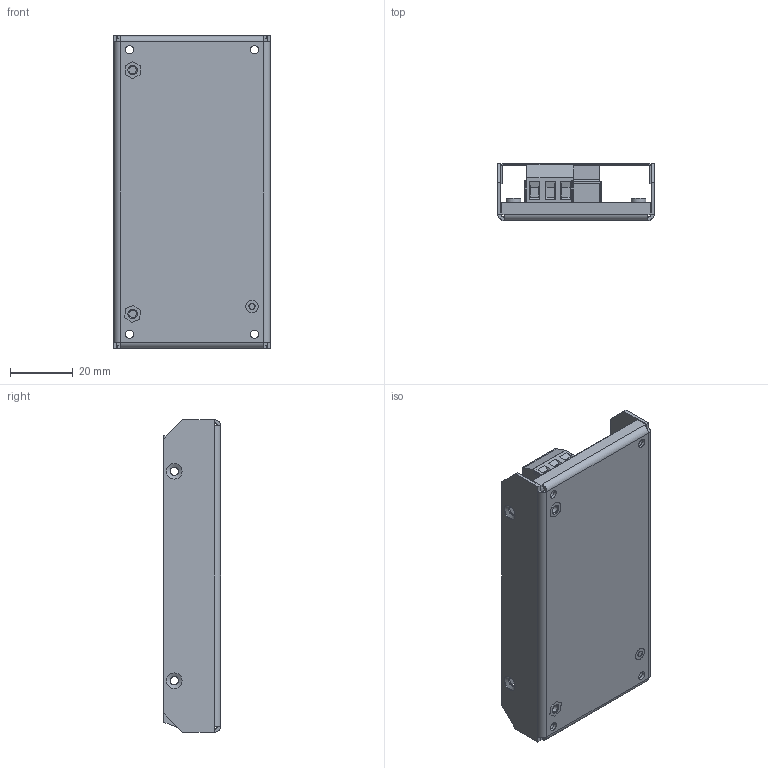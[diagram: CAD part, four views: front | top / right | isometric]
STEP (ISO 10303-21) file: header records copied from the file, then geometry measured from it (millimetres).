
FILE_DESCRIPTION(('STEP AP214'), '1');
FILE_NAME('JETAF5_terminal', '', ('UNSPECIFIED'), ('UNSPECIFIED'), 'ASCON STEP Converter 1.3', 'ASCON Math Kernel', '');
FILE_SCHEMA(('AUTOMOTIVE_DESIGN { 1 0 10303 214 3 1 1}'));
Length unit declared in the file: millimetre
Products named in the file (1): JETAF5_terminal
Bounding box: 50 x 18.35 x 100 mm (x, y, z)
Volume: 15084.3 mm3; surface area: 36657.9 mm2
Topology: 1 solids, 1 shells, 726 faces, 1877 edges, 1218 vertices
Faces by surface type: plane 511, cylinder 200, cone 10, sphere 4, torus 1
Full cylindrical faces by diameter (mm): 0.3 x6, 0.457 x2, 1.567 x1, 2.459 x2, 2.7 x8, 3.15 x2, 3.3 x4, 3.78 x2, 3.8 x6, 3.96 x1, 3.99 x4, 4 x6, 4.2 x6, 4.22 x2, 4.76 x8, 5 x4
Entity records: 28464 total; most frequent: CARTESIAN_POINT 4797, DIRECTION 3652, ORIENTED_EDGE 3588, EDGE_CURVE 1794, LINE 1354, VECTOR 1354, VERTEX_POINT 1214, AXIS2_PLACEMENT_3D 1149
